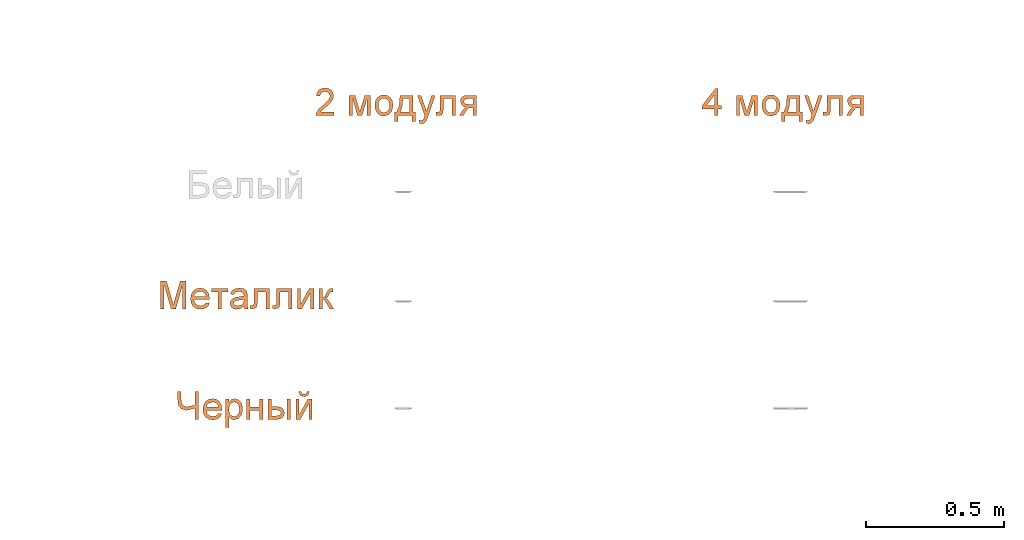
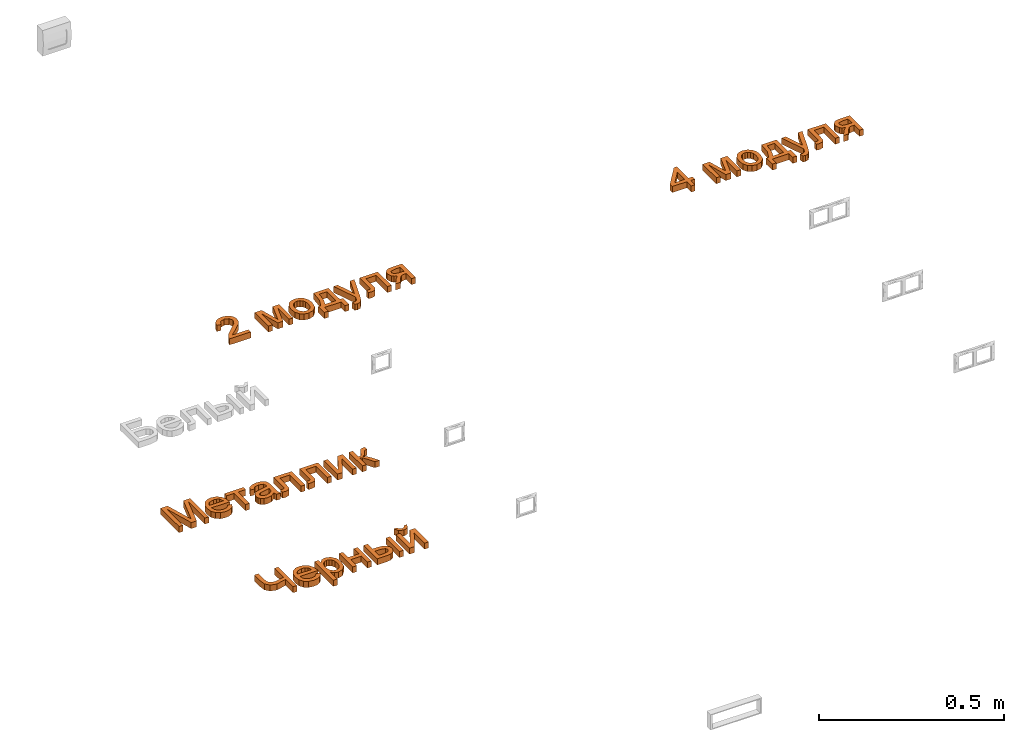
# One storey, part 69 of 87: 4 proxies.
"""IFC2X3 building model written with IfcOpenShell, lengths in millimetres."""

from ifc_helpers import new_model, entity, si_unit, converted_unit, derived_unit, direction, frame, frame_2d, origin, place, context, subcontext, project, spatial, polyline, rectangle, outline, extrude, element, save


model = new_model("IFC2X3")

# Units and contexts
model_context = context("Model", 3, precision=0.01, world=origin(), true_north=direction((6.12303176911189e-17, 1.0)))
body_context = subcontext(model_context, "Body", "Model", "MODEL_VIEW")
ifc_project = project(units=[si_unit("LENGTHUNIT", "METRE", prefix="MILLI"), si_unit("AREAUNIT", "SQUARE_METRE"), si_unit("VOLUMEUNIT", "CUBIC_METRE"), converted_unit("PLANEANGLEUNIT", "DEGREE", entity("IfcRatioMeasure", 0.0174532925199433), si_unit("PLANEANGLEUNIT", "RADIAN"), dimensions=[0, 0, 0, 0, 0, 0, 0]), si_unit("MASSUNIT", "GRAM", prefix="KILO"), derived_unit("MASSDENSITYUNIT", [(si_unit("MASSUNIT", "GRAM", prefix="KILO"), 1), (si_unit("LENGTHUNIT", "METRE"), -3)]), si_unit("TIMEUNIT", "SECOND"), si_unit("FREQUENCYUNIT", "HERTZ"), si_unit("THERMODYNAMICTEMPERATUREUNIT", "DEGREE_CELSIUS"), derived_unit("THERMALTRANSMITTANCEUNIT", [(si_unit("MASSUNIT", "GRAM", prefix="KILO"), 1), (si_unit("THERMODYNAMICTEMPERATUREUNIT", "KELVIN"), -1), (si_unit("TIMEUNIT", "SECOND"), -3)]), derived_unit("VOLUMETRICFLOWRATEUNIT", [(si_unit("LENGTHUNIT", "METRE"), 3), (si_unit("TIMEUNIT", "SECOND"), -1)]), si_unit("ELECTRICCURRENTUNIT", "AMPERE"), si_unit("ELECTRICVOLTAGEUNIT", "VOLT"), si_unit("POWERUNIT", "WATT"), si_unit("FORCEUNIT", "NEWTON", prefix="KILO"), si_unit("ILLUMINANCEUNIT", "LUX"), si_unit("LUMINOUSFLUXUNIT", "LUMEN"), si_unit("LUMINOUSINTENSITYUNIT", "CANDELA"), derived_unit("USERDEFINED", [(si_unit("MASSUNIT", "GRAM", prefix="KILO"), -1), (si_unit("LENGTHUNIT", "METRE"), -2), (si_unit("TIMEUNIT", "SECOND"), 3), (si_unit("LUMINOUSFLUXUNIT", "LUMEN"), 1)]), derived_unit("LINEARVELOCITYUNIT", [(si_unit("LENGTHUNIT", "METRE"), 1), (si_unit("TIMEUNIT", "SECOND"), -1)]), si_unit("PRESSUREUNIT", "PASCAL"), derived_unit("USERDEFINED", [(si_unit("LENGTHUNIT", "METRE"), -2), (si_unit("MASSUNIT", "GRAM", prefix="KILO"), 1), (si_unit("TIMEUNIT", "SECOND"), -2)])], contexts=[model_context])

# Site, building, storey
site_placement = place(None, origin())
site = spatial("IfcSite", under=ifc_project, at=site_placement, Name="Default", CompositionType="ELEMENT")
building_placement = place(site_placement, origin())
building = spatial("IfcBuilding", under=site, at=building_placement, Name="Наименование здания", CompositionType="ELEMENT")
storey_placement = place(building_placement, origin())
storey = spatial("IfcBuildingStorey", under=building, at=storey_placement, Name="Этаж 01", CompositionType="ELEMENT", Elevation=0.0)

# Proxies
proxy_1_placement = place(storey_placement, origin())
element("IfcBuildingElementProxy", 1, at=proxy_1_placement, inside=storey, Name="Текст модели:100 мм Arial", ObjectType="Текст модели:100 мм Arial", context=body_context, shape_type="SweptSolid", body=[
    extrude(outline(polyline([(-46.3269708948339, -43.5343377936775), (-33.769932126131, -43.5343377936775), (-33.769932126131, 44.3649335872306), (-8.5332272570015, -43.5343377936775), (8.4874463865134, -43.5343377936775), (33.7241512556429, 44.3649335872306), (33.7241512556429, -43.5343377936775), (46.2811900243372, -43.5343377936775), (46.2811900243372, 56.9219723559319), (24.6742541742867, 56.9219723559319), (4.46526990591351, -12.656775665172), (-0.0228904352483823, -28.671905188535), (-4.16769424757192, -13.883048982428), (-24.7200350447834, 56.9219723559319), (-46.3269708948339, 56.9219723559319), (-46.3269708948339, -43.5343377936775)])), frame((76464.8853119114, -2083.70667242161, 0.0)), (0.0, 0.0, 1.0), 20.0),
    extrude(outline(polyline([(-8.10128238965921, -20.3751729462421), (-15.5352214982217, -30.3140016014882), (-5.78400372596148, -33.5775071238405), (4.12185089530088, -33.3132173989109), (13.8776168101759, -29.4480778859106), (23.1785684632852, -21.9090340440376), (31.6380426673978, -9.5923795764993), (34.1620486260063, 3.74135328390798), (30.6040508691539, 17.2442201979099), (20.8175139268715, 30.0682768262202), (7.27698270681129, 39.7846728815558), (-6.66179525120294, 43.1117813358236), (-19.9642596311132, 40.4221234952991), (-31.5958501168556, 32.0882206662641), (-39.2435519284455, 20.5090048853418), (-41.3106827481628, 7.34319797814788), (-37.4373707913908, -6.34962495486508), (-27.2637442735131, -19.5098888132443), (-24.7804584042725, -21.8106804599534), (14.4643272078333, 18.7422646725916), (19.7071986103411, 10.6437992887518), (21.1614672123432, 2.21005051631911), (19.1472085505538, -5.98136753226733), (13.9844981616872, -13.3528407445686), (3.53684605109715, -20.3751729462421), (-8.10128238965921, -20.3751729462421)]), holes=[polyline([(5.44081225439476, 27.4746984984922), (-25.1227061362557, -4.10760383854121), (-29.8038819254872, 7.41909510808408), (-27.8851342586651, 15.7498710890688), (-22.5382240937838, 23.3910349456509), (-8.40970331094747, 31.2368652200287), (-1.08072680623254, 30.9147288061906), (5.44081225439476, 27.4746984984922)])]), frame((76562.9468737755, -2096.91845939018, 0.0), z_axis=(0.0, 0.0, -1.0), x_axis=(-0.695421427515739, -0.718602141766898, 0.0)), (0.0, 0.0, -1.0), 20.0),
    extrude(outline(polyline([(-24.7216700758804, -29.8229670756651), (-12.1646313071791, -29.8229670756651), (-12.1646313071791, -6.27851938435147), (49.0509326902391, -6.27851938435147), (49.0509326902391, 6.27851938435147), (-12.1646313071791, 6.27851938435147), (-12.1646313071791, 29.8229670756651), (-24.7216700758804, 29.8229670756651), (-24.7216700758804, -29.8229670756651)])), frame((76632.0280000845, -2078.19007752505, 0.0), z_axis=(0.0, 0.0, 1.0), x_axis=(0.0, -1.0, 0.0)), (0.0, 0.0, 1.0), 20.0),
    extrude(outline(polyline([(32.0508237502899, 7.88266535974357), (41.978034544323, 7.88266535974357), (45.9489188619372, 19.7953183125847), (35.1414436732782, 20.7608946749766), (14.2438893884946, 27.0545912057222), (-0.577126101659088, 31.9949297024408), (-11.1945882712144, 34.887780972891), (-20.4974705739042, 33.9299602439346), (-28.5323068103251, 27.5470739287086), (-35.4619652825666, 13.8157249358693), (-38.3044049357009, -2.69989645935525), (-34.9462156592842, -15.3493345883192), (-25.0306383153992, -24.3807697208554), (-19.5706723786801, -12.964477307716), (-25.7868125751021, -4.50695904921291), (-24.0611841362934, 8.30922519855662), (-16.2279943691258, 20.3304570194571), (-6.33956174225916, 20.6794605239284), (-3.71040200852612, 19.725517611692), (-6.50243004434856, -2.30048133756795), (-8.14662433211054, -13.2049019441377), (-7.01817966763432, -22.8490321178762), (-2.17478658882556, -31.1204151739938), (6.48825595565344, -36.5416029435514), (15.0010331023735, -37.702039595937), (22.9495879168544, -35.3200906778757), (29.6378522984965, -29.3899394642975), (34.3697581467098, -19.9057692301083), (36.2737661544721, -6.36055543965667), (32.0508237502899, 7.88266535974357)]), holes=[polyline([(8.22551784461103, 15.824433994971), (11.5759514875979, 14.6300664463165), (20.1614376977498, 9.67421668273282), (24.4696920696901, -0.396473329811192), (23.3024692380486, -13.3987927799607), (17.2491973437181, -22.9498553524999), (9.62153186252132, -24.3497471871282), (5.58084684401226, -21.193204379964), (3.9870641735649, -15.5044472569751), (5.47226797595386, -4.61166010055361), (8.22551784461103, 15.824433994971)])]), frame((76702.3137581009, -2089.90986761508, 0.0), z_axis=(0.0, 0.0, 1.0), x_axis=(0.316227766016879, -0.9486832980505, 0.0)), (0.0, 0.0, 1.0), 20.0),
    extrude(outline(polyline([(-49.3689973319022, 12.5447760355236), (-49.3689973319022, -43.9618984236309), (24.3300290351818, -43.9618984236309), (24.3300290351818, -31.4048596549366), (-36.8119585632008, -31.4048596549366), (-36.8119585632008, -0.0122627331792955), (-1.61791435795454, -0.0122627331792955), (14.6179443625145, 0.833865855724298), (21.4728122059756, 5.4814417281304), (24.4036054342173, 16.4688506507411), (23.7659433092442, 26.6714446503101), (11.8465666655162, 26.6714446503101), (11.8465666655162, 21.0551128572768), (11.0740144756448, 15.3774673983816), (8.62146784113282, 13.1088617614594), (-2.32915288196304, 12.5447760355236), (-49.3689973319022, 12.5447760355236)])), frame((76768.5735339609, -2102.83740478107, 0.0), z_axis=(0.0, 0.0, -1.0), x_axis=(0.0, -1.0, 0.0)), (0.0, 0.0, -1.0), 20.0),
    extrude(outline(polyline([(-49.3689973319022, 12.5447760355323), (-49.3689973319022, -43.9618984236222), (24.3300290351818, -43.9618984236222), (24.3300290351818, -31.4048596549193), (-36.8119585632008, -31.4048596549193), (-36.8119585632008, -0.0122627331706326), (-1.61791435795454, -0.0122627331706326), (14.6179443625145, 0.833865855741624), (21.4728122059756, 5.48144172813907), (24.4036054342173, 16.4688506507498), (23.7659433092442, 26.6714446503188), (11.8465666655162, 26.6714446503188), (11.8465666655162, 21.0551128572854), (11.0740144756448, 15.3774673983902), (8.62146784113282, 13.108861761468), (-2.32915288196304, 12.5447760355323), (-49.3689973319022, 12.5447760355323)])), frame((76850.1942859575, -2102.83740478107, 0.0), z_axis=(0.0, 0.0, -1.0), x_axis=(0.0, -1.0, 0.0)), (0.0, 0.0, -1.0), 20.0),
    extrude(outline(polyline([(-36.9206370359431, -29.8425874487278), (36.8519657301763, -29.8425874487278), (36.8519657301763, -13.4105249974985), (-19.0660975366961, 17.2463079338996), (36.8519657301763, 17.2463079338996), (36.8519657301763, 29.8033467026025), (-36.9206370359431, 29.8033467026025), (-36.9206370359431, 13.5674879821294), (19.3407827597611, -17.2855486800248), (-36.9206370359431, -17.2855486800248), (-36.9206370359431, -29.8425874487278)])), frame((76942.8343299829, -2090.38904448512, 0.0), z_axis=(0.0, 0.0, 1.0), x_axis=(0.0, -1.0, 0.0)), (0.0, 0.0, 1.0), 20.0),
    extrude(outline(polyline([(-30.3295712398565, -29.5353037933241), (43.443031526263, -29.5353037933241), (43.443031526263, -16.9782650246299), (8.91117491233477, -16.9782650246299), (11.2288314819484, -10.2337617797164), (20.8060260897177, -3.61188586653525), (43.443031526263, 9.55828956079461), (43.443031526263, 23.8321109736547), (20.3155167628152, 10.3921554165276), (10.0209522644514, 2.61758258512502), (5.13425309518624, -5.3041430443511), (0.756457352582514, 1.7959794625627), (-8.18307513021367, 6.86048826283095), (-16.4481572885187, 11.1769703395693), (-17.7725324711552, 17.3083369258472), (-17.69895607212, 20.6928512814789), (-30.3295712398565, 20.6928512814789), (-30.3295712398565, 18.2893555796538), (-29.3730780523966, 9.10456843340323), (-25.6819953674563, 4.05232236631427), (-14.3389671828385, -1.6743740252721), (-1.19331722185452, -8.56603006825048), (1.06302568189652, -16.9782650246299), (-30.3295712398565, -16.9782650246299), (-30.3295712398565, -29.5353037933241)])), frame((77021.0085386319, -2083.79797868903, 0.0), z_axis=(0.0, 0.0, 1.0), x_axis=(0.0, -1.0, 0.0)), (0.0, 0.0, 1.0), 20.0),
])
proxy_2_placement = place(storey_placement, origin())
element("IfcBuildingElementProxy", 2, at=proxy_2_placement, inside=storey, Name="Текст модели:100 мм Arial", ObjectType="Текст модели:100 мм Arial", context=body_context, shape_type="SweptSolid", body=[
    extrude(outline(polyline([(-57.0521744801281, -41.5683661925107), (43.4041356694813, -41.5683661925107), (43.4041356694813, -29.0113274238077), (-5.30344049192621, -29.0113274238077), (-11.5329089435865, 0.689012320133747), (-6.37029827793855, 15.1835629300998), (1.59741260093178, 19.7085114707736), (15.1753239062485, 21.2168276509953), (43.4041356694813, 21.2168276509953), (43.4041356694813, 33.7738664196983), (13.4830667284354, 33.7738664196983), (-6.51745107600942, 31.0883278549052), (-19.1235407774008, 20.4442754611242), (-24.0899477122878, 2.08696390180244), (-16.830409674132, -29.0113274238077), (-57.0521744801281, -29.0113274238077), (-57.0521744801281, -41.5683661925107)])), frame((76514.3325863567, -2470.18883573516, 0.0), z_axis=(0.0, 0.0, 1.0), x_axis=(0.0, 1.0, 0.0)), (0.0, 0.0, 1.0), 20.0),
    extrude(outline(polyline([(-8.10128238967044, -20.3751729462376), (-15.5352214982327, -30.314001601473), (-5.78400372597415, -33.5775071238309), (4.12185089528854, -33.313217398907), (13.8776168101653, -29.4480778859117), (23.1785684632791, -21.9090340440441), (31.6380426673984, -9.59237957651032), (34.1620486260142, 3.74135328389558), (30.604050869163, 17.2442201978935), (20.8175139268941, 30.0682768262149), (7.27698270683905, 39.7846728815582), (-6.66179525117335, 43.1117813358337), (-19.9642596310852, 40.4221234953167), (-31.5958501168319, 32.0882206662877), (-39.2435519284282, 20.5090048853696), (-41.3106827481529, 7.34319797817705), (-37.4373707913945, -6.34962495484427), (-27.2637442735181, -19.5098888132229), (-24.7804584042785, -21.8106804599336), (14.4643272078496, 18.7422646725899), (19.7071986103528, 10.6437992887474), (21.16146721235, 2.21005051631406), (19.1472085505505, -5.98136753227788), (13.9844981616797, -13.3528407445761), (3.53684605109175, -20.3751729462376), (-8.10128238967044, -20.3751729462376)]), holes=[polyline([(5.44081225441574, 27.4746984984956), (-25.1227061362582, -4.10760383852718), (-29.8038819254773, 7.41909510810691), (-27.8851342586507, 15.7498710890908), (-22.5382240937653, 23.3910349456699), (-8.40970331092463, 31.23686522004), (-1.08072680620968, 30.9147288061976), (5.44081225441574, 27.4746984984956)])]), frame((76607.681324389, -2496.91845939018, 0.0), z_axis=(0.0, 0.0, -1.0), x_axis=(-0.695421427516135, -0.718602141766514, 0.0)), (0.0, 0.0, -1.0), 20.0),
    extrude(outline(polyline([(-28.8983569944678, -61.2335493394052), (-16.3413182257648, -61.2335493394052), (-16.3413182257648, -23.1700255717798), (-8.38280439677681, -31.3247431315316), (2.5432908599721, -34.5498419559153), (18.4235303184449, -29.7305878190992), (29.9259740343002, -15.8736993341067), (33.8868368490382, 4.47017499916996), (30.3796951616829, 23.8207679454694), (19.9808974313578, 37.505978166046), (4.06386977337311, 42.3620205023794), (-7.65930313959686, 38.8916670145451), (-16.3413182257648, 28.4806065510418), (-16.3413182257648, 40.7923906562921), (-28.8983569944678, 40.7923906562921), (-28.8983569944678, -61.2335493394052)]), holes=[polyline([(-16.3413182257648, 3.31747808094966), (-14.8912500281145, 14.7064915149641), (-10.541045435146, 23.0236902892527), (-4.30851130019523, 28.1096588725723), (2.78854552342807, 29.8049817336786), (9.85801119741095, 28.2108264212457), (15.8606190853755, 23.4283604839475), (19.9625033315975, 15.4453211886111), (21.3297980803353, 4.24944580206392), (19.9287808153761, -7.43080754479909), (15.7257290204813, -15.5916564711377), (9.5606399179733, -20.3925165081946), (2.27351073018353, -21.9928031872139), (-4.89712249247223, -20.4476988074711), (-10.9089274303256, -15.8123856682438), (-14.9832205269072, -7.93971097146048), (-16.3413182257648, 3.31747808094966)])]), frame((76682.1163600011, -2494.26079810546, 0.0)), (0.0, 0.0, 1.0), 20.0),
    extrude(outline(polyline([(-36.101486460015, -29.0381521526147), (37.6711163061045, -29.0381521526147), (37.6711163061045, -16.4811133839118), (4.70888953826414, -16.4811133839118), (4.70888953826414, 16.4811133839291), (37.6711163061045, 16.4811133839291), (37.6711163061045, 29.038152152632), (-36.101486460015, 29.038152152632), (-36.101486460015, 16.4811133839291), (-7.84814923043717, 16.4811133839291), (-7.84814923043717, -16.4811133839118), (-36.101486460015, -16.4811133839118), (-36.101486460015, -29.0381521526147)])), frame((76759.1680176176, -2489.56989390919, 0.0), z_axis=(0.0, 0.0, 1.0), x_axis=(0.0, -1.0, 0.0)), (0.0, 0.0, 1.0), 20.0),
    extrude(outline(polyline([(-42.3988715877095, -34.5139341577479), (31.37373117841, -34.5139341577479), (31.37373117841, -3.73447389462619), (29.6538828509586, 9.3161398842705), (24.4943378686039, 18.2526066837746), (16.9129030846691, 23.4121516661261), (7.927385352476, 25.1319999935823), (-1.9410491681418, 23.081057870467), (-9.42438208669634, 16.9282315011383), (-14.1424686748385, 6.98622058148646), (-15.7151642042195, -6.43227519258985), (-15.7151642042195, -21.9568953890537), (-42.3988715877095, -21.9568953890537), (-42.3988715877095, -34.5139341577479)]), holes=[polyline([(18.8166924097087, -21.9568953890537), (-3.15812543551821, -21.9568953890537), (-3.15812543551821, -7.41329384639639), (0.226388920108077, 8.88387853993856), (7.95191081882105, 12.5749612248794), (16.1802047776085, 7.59629155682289), (18.8166924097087, -9.05650009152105), (18.8166924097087, -21.9568953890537)])]), frame((76841.555662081, -2495.86727903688, 0.0), z_axis=(0.0, 0.0, 1.0), x_axis=(0.0, -1.0, 0.0)), (0.0, 0.0, 1.0), 20.0),
    extrude(outline(polyline([(-11.1429830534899, -6.65049913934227), (-15.3141401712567, -15.094195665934), (-0.0922190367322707, -15.8161107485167), (10.2631635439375, -5.84547547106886), (12.4162171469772, 9.42172447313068), (2.76087400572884, 21.495155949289), (-1.41028311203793, 13.0514594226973), (3.36929976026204, 6.75127419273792), (2.31913688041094, -0.662833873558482), (-3.16906596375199, -6.65049913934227), (-11.1429830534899, -6.65049913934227)])), frame((76937.4105231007, -2433.82964027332, 0.0), z_axis=(0.0, 0.0, -1.0), x_axis=(-0.442902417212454, -0.896569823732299, 0.0)), (0.0, 0.0, -1.0), 20.0),
    extrude(outline(polyline([(-36.9206370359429, -29.8425874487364), (36.8519657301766, -29.8425874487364), (36.8519657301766, -13.4105249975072), (-19.0660975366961, 17.2463079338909), (36.8519657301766, 17.2463079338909), (36.8519657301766, 29.8033467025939), (-36.9206370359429, 29.8033467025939), (-36.9206370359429, 13.5674879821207), (19.3407827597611, -17.2855486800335), (-36.9206370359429, -17.2855486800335), (-36.9206370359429, -29.8425874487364)])), frame((76937.3406255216, -2490.38904448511, 0.0), z_axis=(0.0, 0.0, 1.0), x_axis=(0.0, -1.0, 0.0)), (0.0, 0.0, 1.0), 20.0),
    extrude(rectangle(XDim=73.7726027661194, YDim=12.5570387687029, at=frame_2d((-2.70006239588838e-13, 0.0), x_axis=(1.0, 0.0))), frame((76882.3839605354, -2490.35470883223, 0.0), z_axis=(0.0, 0.0, 1.0), x_axis=(0.0, -1.0, 0.0)), (0.0, 0.0, 1.0), 20.0),
])
proxy_3_placement = place(storey_placement, origin())
element("IfcBuildingElementProxy", 3, at=proxy_3_placement, inside=storey, Name="Текст модели:100 мм Arial", ObjectType="Текст модели:100 мм Arial", context=body_context, shape_type="SweptSolid", body=[
    extrude(outline(polyline([(-32.3858783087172, -45.1669477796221), (-32.3858783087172, -57.7239865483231), (33.5385752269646, -57.7239865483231), (32.1896745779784, -49.0664969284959), (24.5622545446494, -35.7369059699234), (8.8414306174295, -21.181041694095), (-12.8390816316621, -0.260818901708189), (-18.2592096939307, 13.9639515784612), (-13.1456499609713, 25.4786580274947), (0.208466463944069, 30.175284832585), (14.1266686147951, 25.5890226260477), (19.4119066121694, 12.9093565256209), (31.9689453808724, 14.4789863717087), (28.9247218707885, 26.6252235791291), (22.3426998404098, 35.497311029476), (12.5662358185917, 40.9235704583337), (-0.061313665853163, 42.7323236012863), (-12.7808336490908, 40.7212353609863), (-22.5389035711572, 34.687970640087), (-28.7469122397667, 25.6748617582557), (-30.8162484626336, 14.7242410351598), (-28.5844310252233, 2.81712712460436), (-21.1654774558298, -9.49465698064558), (-3.17604789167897, -26.699271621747), (11.2694517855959, -38.7780637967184), (16.9348345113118, -45.1669477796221), (-32.3858783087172, -45.1669477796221)])), frame((77013.4622660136, -1370.75040858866, 0.0), z_axis=(0.0, 0.0, -1.0), x_axis=(-1.0, 0.0, 0.0)), (0.0, 0.0, -1.0), 20.0),
    extrude(outline(polyline([(-40.5839870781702, -38.4502715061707), (33.1886156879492, -38.4502715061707), (33.1886156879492, -25.8932327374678), (-29.0570178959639, -25.8932327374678), (33.1886156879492, -8.62730443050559), (33.1886156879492, 7.85380895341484), (-26.2120637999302, 25.9045521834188), (33.1886156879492, 25.9045521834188), (33.1886156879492, 38.4615909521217), (-40.5839870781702, 38.4615909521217), (-40.5839870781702, 17.7620973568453), (18.4733358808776, -0.190544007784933), (-40.5839870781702, -16.8433356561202), (-40.5839870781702, -38.4502715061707)])), frame((77139.2354604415, -1395.28577944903, 0.0), z_axis=(0.0, 0.0, 1.0), x_axis=(0.0, -1.0, 0.0)), (0.0, 0.0, 1.0), 20.0),
    extrude(outline(polyline([(-2.34029740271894, -31.6984909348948), (14.2731811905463, -31.6984909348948), (27.1869525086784, -26.5873672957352), (35.9909592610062, -17.1811275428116), (40.2751441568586, -4.29577920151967), (38.1491713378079, 13.1690451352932), (27.2514955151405, 26.6485362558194), (5.6779791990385, 33.7446283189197), (-10.1280544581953, 33.6081083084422), (-22.8059382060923, 28.3900569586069), (-31.638956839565, 18.9754531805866), (-35.9103951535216, 6.24927588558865), (-35.5406401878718, -5.97109031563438), (-30.8535887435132, -16.7835237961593), (-19.5870121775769, -26.5692340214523), (-2.34029740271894, -31.6984909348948)]), holes=[polyline([(-0.642949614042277, -19.2566729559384), (-11.6948097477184, -16.2599663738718), (-19.0989004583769, -10.8341828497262), (-22.982263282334, -3.67356758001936), (-23.4719397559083, 4.5276342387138), (-20.7783225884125, 12.2046648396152), (-15.0781786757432, 18.0357050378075), (-6.56600936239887, 21.2863283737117), (4.56368400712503, 21.2221083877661), (15.8675929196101, 18.1905150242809), (23.3961896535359, 12.7474982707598), (27.3267847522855, 5.59272509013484), (27.8366887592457, -2.57413755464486), (25.1317228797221, -10.3331599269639), (19.4311586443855, -16.1672368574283), (10.8134498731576, -19.3753979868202), (-0.642949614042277, -19.2566729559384)])]), frame((77225.113361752, -1389.56024644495, 0.0), z_axis=(0.0, 0.0, 1.0), x_axis=(0.137105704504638, -0.990556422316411, 0.0)), (0.0, 0.0, 1.0), 20.0),
    extrude(outline(polyline([(-60.5357741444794, 21.8585403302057), (-64.1355131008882, -25.0925613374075), (-3.09908093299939, -29.7722219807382), (-3.81902872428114, -39.1624423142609), (29.0467424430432, -41.6822595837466), (30.0066728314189, -29.1619658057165), (9.66119544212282, -27.6020789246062), (13.6209082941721, 24.044132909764), (33.9663856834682, 22.4842460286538), (34.9263160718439, 35.0045398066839), (2.06054490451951, 37.5243570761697), (1.46058841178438, 29.6991734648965), (-23.1599571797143, 21.8585403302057), (-60.5357741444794, 21.8585403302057)]), holes=[polyline([(-48.8554194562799, 9.94335288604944), (-20.1051961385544, 10.6907678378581), (0.380666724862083, 15.6138429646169), (-2.13915054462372, -17.251928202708), (-50.6552889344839, -13.5321979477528), (-48.8554194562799, 9.94335288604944)])]), frame((77301.5987640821, -1416.7314131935, 0.0), z_axis=(0.0, 0.0, -1.0), x_axis=(-0.0764456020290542, -0.997073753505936, 0.0)), (0.0, 0.0, -1.0), 20.0),
    extrude(outline(polyline([(-9.37518561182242, -42.4598564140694), (-1.53988444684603, -42.4598564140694), (7.48239978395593, -37.7362595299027), (12.8451650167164, -27.6028387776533), (16.0988896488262, -10.215555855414), (26.1240678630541, 68.9356869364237), (13.2448947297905, 66.3022457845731), (7.58427059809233, 21.3872733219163), (5.65333119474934, 6.22303112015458), (-2.45833389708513, 21.2864004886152), (-24.5276055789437, 58.5787952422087), (-37.5028919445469, 55.9257015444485), (3.36457727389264, -10.7416452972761), (3.01267387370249, -13.9176809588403), (1.50096319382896, -23.6641922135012), (-1.30543571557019, -28.1807080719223), (-6.86672236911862, -30.7321996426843), (-13.3351736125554, -30.9283412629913), (-9.37518561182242, -42.4598564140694)])), frame((77372.7562603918, -1417.00669583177, 0.0), z_axis=(0.0, 0.0, 1.0), x_axis=(0.979728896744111, -0.200327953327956, 0.0)), (0.0, 0.0, 1.0), 20.0),
    extrude(outline(polyline([(-49.3689973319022, 12.544776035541), (-49.3689973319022, -43.9618984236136), (24.3300290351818, -43.9618984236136), (24.3300290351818, -31.4048596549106), (-36.8119585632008, -31.4048596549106), (-36.8119585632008, -0.0122627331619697), (-1.61791435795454, -0.0122627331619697), (14.6179443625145, 0.833865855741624), (21.4728122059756, 5.48144172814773), (24.4036054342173, 16.4688506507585), (23.7659433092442, 26.6714446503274), (11.8465666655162, 26.6714446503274), (11.8465666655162, 21.0551128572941), (11.0740144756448, 15.3774673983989), (8.62146784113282, 13.1088617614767), (-2.32915288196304, 12.544776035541), (-49.3689973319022, 12.544776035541)])), frame((77441.3826028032, -1404.07078970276, 0.0), z_axis=(0.0, 0.0, -1.0), x_axis=(0.0, -1.0, 0.0)), (0.0, 0.0, -1.0), 20.0),
    extrude(outline(polyline([(-36.1880068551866, -39.185563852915), (-3.42198381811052, -39.185563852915), (7.43666640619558, -37.7079045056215), (15.3890488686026, -33.2749264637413), (20.2634853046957, -26.4691095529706), (21.8882974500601, -17.8729335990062), (17.130356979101, -3.64816311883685), (11.0970922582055, 1.34890064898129), (2.51317903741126, 3.97925691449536), (13.2062823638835, 14.4271055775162), (25.8123720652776, 34.5870389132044), (11.2932959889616, 34.5870389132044), (1.28690572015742, 18.6454857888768), (-7.46868576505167, 7.92785699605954), (-16.7883629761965, 6.33370168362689), (-23.6309680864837, 6.33370168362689), (-23.6309680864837, 34.5870389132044), (-36.1880068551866, 34.5870389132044), (-36.1880068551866, -39.185563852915)]), holes=[polyline([(-23.6309680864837, -26.6285250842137), (-23.6309680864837, -6.22333708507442), (-10.7796237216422, -6.22333708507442), (4.90441200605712, -8.81077378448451), (9.33125868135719, -16.9164404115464), (6.32688905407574, -23.7222573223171), (-7.07627830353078, -26.6285250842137), (-23.6309680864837, -26.6285250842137)])]), frame((77524.4987269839, -1393.88735622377, 0.0), z_axis=(0.0, 0.0, 1.0), x_axis=(-1.0, 0.0, 0.0)), (0.0, 0.0, 1.0), 20.0),
])
proxy_4_placement = place(storey_placement, origin())
element("IfcBuildingElementProxy", 4, at=proxy_4_placement, inside=storey, Name="Текст модели:100 мм Arial", ObjectType="Текст модели:100 мм Arial", context=body_context, shape_type="SweptSolid", body=[
    extrude(outline(polyline([(-1.14154897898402, -36.3868737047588), (11.4154897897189, -36.3868737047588), (11.4154897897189, -12.8424260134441), (23.9725285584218, -12.8424260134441), (23.9725285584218, -0.285387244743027), (11.4154897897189, -0.285387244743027), (11.4154897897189, 62.499806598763), (1.99771071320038, 62.499806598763), (-46.6608145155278, -0.285387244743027), (-46.6608145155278, -12.8424260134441), (-1.14154897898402, -12.8424260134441), (-1.14154897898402, -36.3868737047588)]), holes=[polyline([(-1.14154897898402, -0.285387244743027), (-31.2097707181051, -0.285387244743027), (-1.14154897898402, 38.5139005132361), (-1.14154897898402, -0.285387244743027)])]), frame((78423.44524561, -1392.08752143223, 0.0)), (0.0, 0.0, 1.0), 20.0),
    extrude(outline(polyline([(-40.5839870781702, -38.4502715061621), (33.1886156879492, -38.4502715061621), (33.1886156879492, -25.8932327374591), (-29.0570178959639, -25.8932327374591), (33.1886156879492, -8.62730443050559), (33.1886156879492, 7.8538089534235), (-26.2120637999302, 25.9045521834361), (33.1886156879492, 25.9045521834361), (33.1886156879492, 38.4615909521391), (-40.5839870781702, 38.4615909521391), (-40.5839870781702, 17.762097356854), (18.4733358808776, -0.190544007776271), (-40.5839870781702, -16.8433356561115), (-40.5839870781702, -38.4502715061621)])), frame((78539.2354604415, -1395.28577944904, 0.0), z_axis=(0.0, 0.0, 1.0), x_axis=(0.0, -1.0, 0.0)), (0.0, 0.0, 1.0), 20.0),
    extrude(outline(polyline([(-2.34029740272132, -31.698490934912), (14.2731811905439, -31.698490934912), (27.186952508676, -26.5873672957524), (35.9909592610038, -17.1811275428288), (40.2751441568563, -4.29577920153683), (38.1491713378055, 13.169045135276), (27.2514955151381, 26.6485362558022), (5.67797919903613, 33.7446283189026), (-10.1280544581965, 33.6081083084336), (-22.8059382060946, 28.3900569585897), (-31.6389568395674, 18.9754531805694), (-35.9103951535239, 6.24927588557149), (-35.5406401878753, -5.97109031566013), (-30.8535887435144, -16.7835237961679), (-19.5870121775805, -26.569234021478), (-2.34029740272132, -31.698490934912)]), holes=[polyline([(-0.642949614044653, -19.2566729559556), (-11.694809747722, -16.2599663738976), (-19.0989004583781, -10.8341828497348), (-22.9822632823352, -3.67356758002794), (-23.4719397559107, 4.52763423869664), (-20.7783225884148, 12.204664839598), (-15.0781786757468, 18.0357050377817), (-6.56600936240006, 21.2863283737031), (4.56368400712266, 21.2221083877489), (15.8675929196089, 18.1905150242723), (23.3961896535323, 12.747498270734), (27.3267847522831, 5.59272509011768), (27.8366887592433, -2.57413755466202), (25.1317228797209, -10.3331599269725), (19.4311586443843, -16.1672368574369), (10.8134498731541, -19.3753979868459), (-0.642949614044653, -19.2566729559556)])]), frame((78625.113361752, -1389.56024644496, 0.0), z_axis=(0.0, 0.0, 1.0), x_axis=(0.137105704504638, -0.990556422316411, 0.0)), (0.0, 0.0, 1.0), 20.0),
    extrude(outline(polyline([(-60.53577414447, 21.858540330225), (-64.1355131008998, -25.0925613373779), (-3.09908093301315, -29.7722219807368), (-3.81902872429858, -39.1624423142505), (29.0467424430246, -41.6822595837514), (30.0066728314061, -29.1619658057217), (9.66119544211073, -27.602078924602), (13.6209082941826, 24.0441329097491), (33.966385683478, 22.4842460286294), (34.9263160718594, 35.0045398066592), (2.06054490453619, 37.5243570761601), (1.46058841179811, 29.6991734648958), (-23.1599571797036, 21.858540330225), (-60.53577414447, 21.858540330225)]), holes=[polyline([(-48.8554194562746, 9.94335288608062), (-20.1051961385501, 10.6907678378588), (0.3806667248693, 15.6138429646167), (-2.13915054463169, -17.2519282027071), (-50.6552889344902, -13.5321979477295), (-48.8554194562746, 9.94335288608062)])]), frame((78701.5987640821, -1416.73141319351, 0.0), z_axis=(0.0, 0.0, -1.0), x_axis=(-0.0764456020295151, -0.9970737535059, 0.0)), (0.0, 0.0, -1.0), 20.0),
    extrude(outline(polyline([(-9.37518561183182, -42.4598564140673), (-1.53988444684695, -42.4598564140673), (7.48239978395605, -37.7362595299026), (12.8451650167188, -27.6028387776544), (16.0988896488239, -10.2155558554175), (26.1240678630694, 68.9356869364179), (13.2448947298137, 66.3022457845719), (7.58427059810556, 21.3872733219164), (5.65333119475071, 6.22303112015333), (-2.45833389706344, 21.2864004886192), (-24.5276055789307, 58.5787952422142), (-37.5028919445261, 55.9257015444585), (3.36457727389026, -10.7416452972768), (3.01267387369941, -13.9176809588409), (1.50096319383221, -23.6641922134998), (-1.30543571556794, -28.1807080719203), (-6.86672236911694, -30.7321996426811), (-13.3351736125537, -30.9283412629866), (-9.37518561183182, -42.4598564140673)])), frame((78772.7562603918, -1417.00669583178, 0.0), z_axis=(0.0, 0.0, 1.0), x_axis=(0.979728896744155, -0.200327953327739, 0.0)), (0.0, 0.0, 1.0), 20.0),
    extrude(outline(polyline([(-49.3689973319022, 12.5447760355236), (-49.3689973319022, -43.9618984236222), (24.3300290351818, -43.9618984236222), (24.3300290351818, -31.4048596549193), (-36.8119585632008, -31.4048596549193), (-36.8119585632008, -0.0122627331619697), (-1.61791435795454, -0.0122627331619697), (14.6179443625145, 0.833865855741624), (21.4728122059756, 5.4814417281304), (24.4036054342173, 16.4688506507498), (23.7659433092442, 26.6714446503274), (11.8465666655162, 26.6714446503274), (11.8465666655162, 21.0551128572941), (11.0740144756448, 15.3774673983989), (8.62146784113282, 13.1088617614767), (-2.32915288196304, 12.5447760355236), (-49.3689973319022, 12.5447760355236)])), frame((78841.3826028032, -1404.07078970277, 0.0), z_axis=(0.0, 0.0, -1.0), x_axis=(0.0, -1.0, 0.0)), (0.0, 0.0, -1.0), 20.0),
    extrude(outline(polyline([(-36.1880068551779, -39.185563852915), (-3.42198381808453, -39.185563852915), (7.43666640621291, -37.7079045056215), (15.3890488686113, -33.2749264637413), (20.2634853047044, -26.4691095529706), (21.8882974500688, -17.8729335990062), (17.1303569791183, -3.64816311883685), (11.0970922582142, 1.34890064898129), (2.51317903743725, 3.97925691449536), (13.2062823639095, 14.4271055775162), (25.8123720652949, 34.5870389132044), (11.2932959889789, 34.5870389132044), (1.28690572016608, 18.6454857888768), (-7.46868576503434, 7.92785699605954), (-16.7883629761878, 6.33370168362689), (-23.630968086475, 6.33370168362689), (-23.630968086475, 34.5870389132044), (-36.1880068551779, 34.5870389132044), (-36.1880068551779, -39.185563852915)]), holes=[polyline([(-23.630968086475, -26.6285250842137), (-23.630968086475, -6.22333708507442), (-10.7796237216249, -6.22333708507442), (4.90441200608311, -8.81077378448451), (9.33125868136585, -16.9164404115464), (6.32688905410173, -23.7222573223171), (-7.0762783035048, -26.6285250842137), (-23.630968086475, -26.6285250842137)])]), frame((78924.4987269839, -1393.88735622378, 0.0), z_axis=(0.0, 0.0, 1.0), x_axis=(-1.0, 0.0, 0.0)), (0.0, 0.0, 1.0), 20.0),
])

save(model, "model.ifc")
